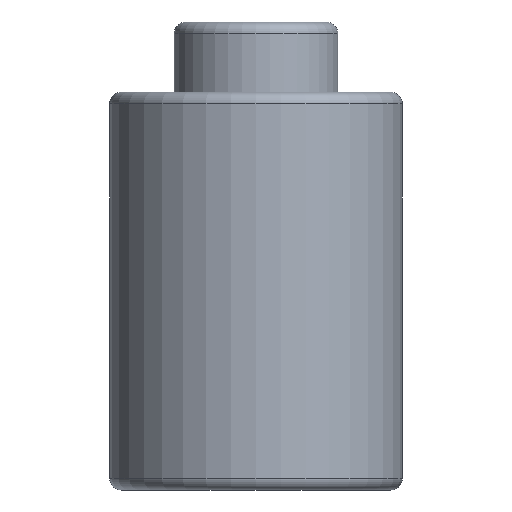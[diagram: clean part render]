
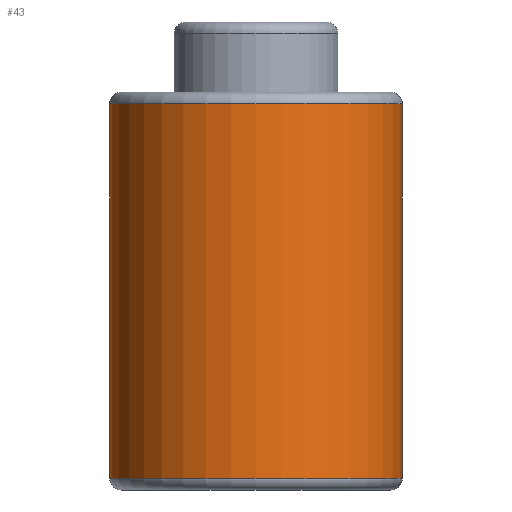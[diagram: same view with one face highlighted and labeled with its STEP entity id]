
A CAD part, front view. The second image highlights one B-rep face of the part: STEP entity #43.
In plain terms, the highlighted cylindrical face has radius 12.5 mm (diameter 25 mm), a full revolution.
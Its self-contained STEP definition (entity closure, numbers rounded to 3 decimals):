
#43=ADVANCED_FACE('',(#56,#57),#53,.T.);
#53=CYLINDRICAL_SURFACE('',#141,12.5);
#56=FACE_BOUND('',#74,.T.);
#57=FACE_BOUND('',#75,.T.);
#74=EDGE_LOOP('',(#92));
#75=EDGE_LOOP('',(#93));
#92=ORIENTED_EDGE('',*,*,#120,.F.);
#93=ORIENTED_EDGE('',*,*,#121,.T.);
#110=VERTEX_POINT('',#200);
#111=VERTEX_POINT('',#202);
#120=EDGE_CURVE('',#110,#110,#129,.T.);
#121=EDGE_CURVE('',#111,#111,#130,.T.);
#129=CIRCLE('',#139,12.5);
#130=CIRCLE('',#140,12.5);
#139=AXIS2_PLACEMENT_3D('',#199,#160,#161);
#140=AXIS2_PLACEMENT_3D('',#201,#162,#163);
#141=AXIS2_PLACEMENT_3D('',#203,#164,#165);
#160=DIRECTION('',(0.,0.,-1.));
#161=DIRECTION('',(-1.,0.,0.));
#162=DIRECTION('',(0.,0.,-1.));
#163=DIRECTION('',(-1.,0.,0.));
#164=DIRECTION('',(0.,0.,-1.));
#165=DIRECTION('',(-1.,0.,0.));
#199=CARTESIAN_POINT('',(0.,0.,1.));
#200=CARTESIAN_POINT('',(-12.5,0.,1.));
#201=CARTESIAN_POINT('',(0.,0.,33.));
#202=CARTESIAN_POINT('',(-12.5,0.,33.));
#203=CARTESIAN_POINT('',(0.,0.,0.));
